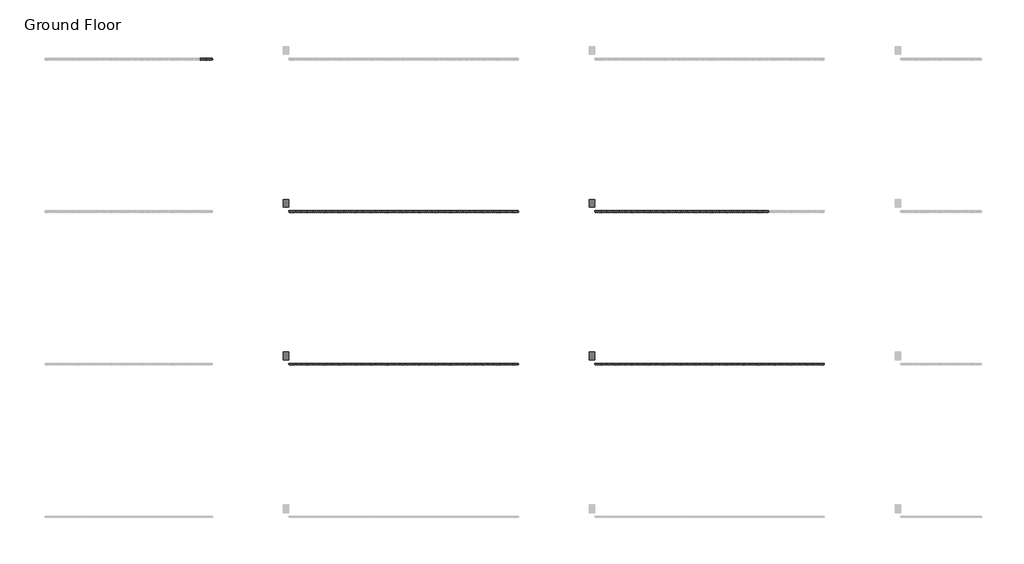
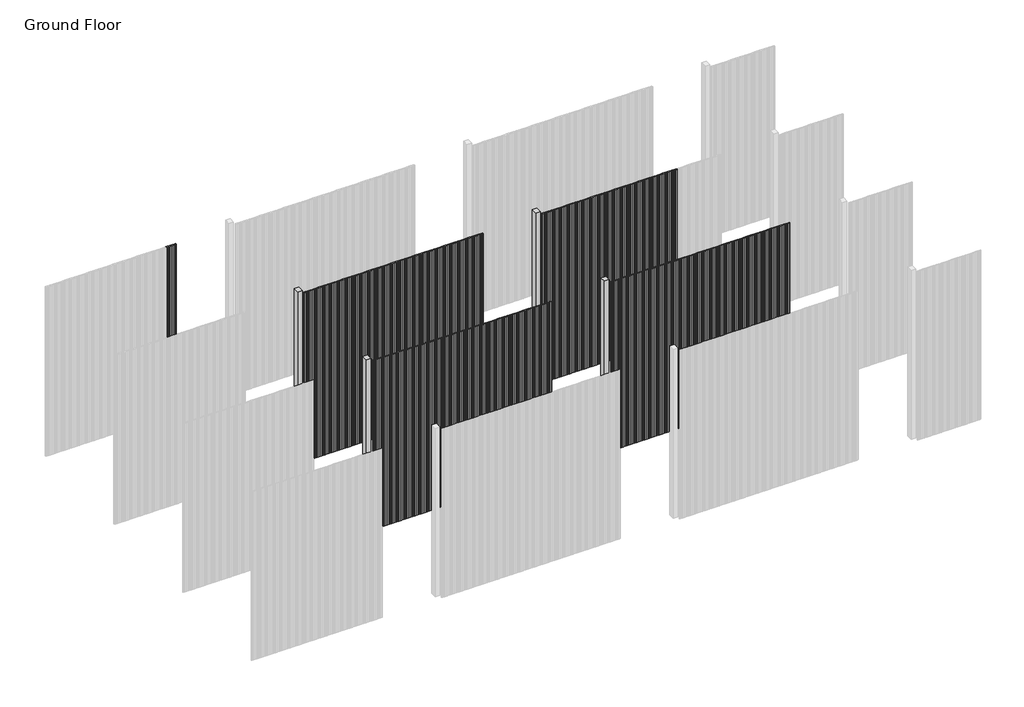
# One storey, part 42 of 350: 141 members, 4 plates.
"""IFC4 building model written with IfcOpenShell, lengths in millimetres."""

from ifc_helpers import new_model, si_unit, origin, place, context, project, spatial, transform, mapped, element, save
from components import rectangular_mullion_14973cdb, rectangular_mullion_624eee80, rectangular_mullion_eca9a012, empty_system_panel_empty_cbd4e42b

model = new_model("IFC4")

# Units and contexts
model_context = context("Model", 3, world=origin())
ifc_project = project(units=[si_unit("LENGTHUNIT", "METRE", prefix="MILLI")], contexts=[model_context])

# Site, building, storey
site = spatial("IfcSite", under=ifc_project)
building = spatial("IfcBuilding", under=site)
storey = spatial("IfcBuildingStorey", under=building, Name="Ground Floor", Elevation=0.0)

# Members
placement = place(None, origin())
rectangular_mullion_shape = rectangular_mullion_14973cdb(model_context)
element("IfcMember", 1, ObjectType="Rectangular Mullion : Cladding_Timber_Modinex_Castelation_81x18_Ironbark", at=placement, inside=storey, context=model_context, shape_type="MappedRepresentation", body=[
    mapped(rectangular_mullion_shape, transform((42536.4361642, 24968.2978302, 0.0), x_axis=(1.0, 0.0, 0.0), y_axis=(0.0, -1.0, 0.0), z_axis=(0.0, 0.0, -1.0))),
])
element("IfcMember", 2, ObjectType="Rectangular Mullion : Cladding_Timber_Modinex_Castelation_81x18_Ironbark", at=placement, inside=storey, context=model_context, shape_type="MappedRepresentation", body=[
    mapped(rectangular_mullion_shape, transform((42617.4361642, 24968.2978302, 0.0), x_axis=(1.0, 0.0, 0.0), y_axis=(0.0, -1.0, 0.0), z_axis=(0.0, 0.0, -1.0))),
])
element("IfcMember", 3, ObjectType="Rectangular Mullion : Cladding_Timber_Modinex_Castelation_81x18_Ironbark", at=placement, inside=storey, context=model_context, shape_type="MappedRepresentation", body=[
    mapped(rectangular_mullion_shape, transform((42698.4361642, 24968.2978302, 0.0), x_axis=(1.0, 0.0, 0.0), y_axis=(0.0, -1.0, 0.0), z_axis=(0.0, 0.0, -1.0))),
])
element("IfcMember", 4, ObjectType="Rectangular Mullion : Cladding_Timber_Modinex_Castelation_81x18_Ironbark", at=placement, inside=storey, context=model_context, shape_type="MappedRepresentation", body=[
    mapped(rectangular_mullion_shape, transform((42779.4361642, 24968.2978302, 0.0), x_axis=(1.0, 0.0, 0.0), y_axis=(0.0, -1.0, 0.0), z_axis=(0.0, 0.0, -1.0))),
])
element("IfcMember", 5, ObjectType="Rectangular Mullion : Cladding_Timber_Modinex_Castelation_81x18_Ironbark", at=placement, inside=storey, context=model_context, shape_type="MappedRepresentation", body=[
    mapped(rectangular_mullion_shape, transform((42860.4361642, 24968.2978302, 0.0), x_axis=(1.0, 0.0, 0.0), y_axis=(0.0, -1.0, 0.0), z_axis=(0.0, 0.0, -1.0))),
])
element("IfcMember", 6, ObjectType="Rectangular Mullion : Cladding_Timber_Modinex_Castelation_81x18_Ironbark", at=placement, inside=storey, context=model_context, shape_type="MappedRepresentation", body=[
    mapped(rectangular_mullion_shape, transform((42941.4361642, 24968.2978302, 0.0), x_axis=(1.0, 0.0, 0.0), y_axis=(0.0, -1.0, 0.0), z_axis=(0.0, 0.0, -1.0))),
])
element("IfcMember", 7, ObjectType="Rectangular Mullion : Cladding_Timber_Modinex_Castelation_81x18_Ironbark", at=placement, inside=storey, context=model_context, shape_type="MappedRepresentation", body=[
    mapped(rectangular_mullion_shape, transform((43022.4361642, 24968.2978302, 0.0), x_axis=(1.0, 0.0, 0.0), y_axis=(0.0, -1.0, 0.0), z_axis=(0.0, 0.0, -1.0))),
])
element("IfcMember", 8, ObjectType="Rectangular Mullion : Cladding_Timber_Modinex_Castelation_81x18_Ironbark", at=placement, inside=storey, context=model_context, shape_type="MappedRepresentation", body=[
    mapped(rectangular_mullion_shape, transform((43103.4361642, 24968.2978302, 0.0), x_axis=(1.0, 0.0, 0.0), y_axis=(0.0, -1.0, 0.0), z_axis=(0.0, 0.0, -1.0))),
])
element("IfcMember", 9, ObjectType="Rectangular Mullion : Cladding_Timber_Modinex_Castelation_81x18_Ironbark", at=placement, inside=storey, context=model_context, shape_type="MappedRepresentation", body=[
    mapped(rectangular_mullion_shape, transform((43184.4361642, 24968.2978302, 0.0), x_axis=(1.0, 0.0, 0.0), y_axis=(0.0, -1.0, 0.0), z_axis=(0.0, 0.0, -1.0))),
])
element("IfcMember", 10, ObjectType="Rectangular Mullion : Cladding_Timber_Modinex_Castelation_81x18_Ironbark", at=placement, inside=storey, context=model_context, shape_type="MappedRepresentation", body=[
    mapped(rectangular_mullion_shape, transform((43265.4361642, 24968.2978302, 0.0), x_axis=(1.0, 0.0, 0.0), y_axis=(0.0, -1.0, 0.0), z_axis=(0.0, 0.0, -1.0))),
])
element("IfcMember", 11, ObjectType="Rectangular Mullion : Cladding_Timber_Modinex_Castelation_81x18_Ironbark", at=placement, inside=storey, context=model_context, shape_type="MappedRepresentation", body=[
    mapped(rectangular_mullion_shape, transform((43346.4361642, 24968.2978302, 0.0), x_axis=(1.0, 0.0, 0.0), y_axis=(0.0, -1.0, 0.0), z_axis=(0.0, 0.0, -1.0))),
])
element("IfcMember", 12, ObjectType="Rectangular Mullion : Cladding_Timber_Modinex_Castelation_81x18_Ironbark", at=placement, inside=storey, context=model_context, shape_type="MappedRepresentation", body=[
    mapped(rectangular_mullion_shape, transform((43427.4361642, 24968.2978302, 0.0), x_axis=(1.0, 0.0, 0.0), y_axis=(0.0, -1.0, 0.0), z_axis=(0.0, 0.0, -1.0))),
])
element("IfcMember", 13, ObjectType="Rectangular Mullion : Cladding_Timber_Modinex_Castelation_81x18_Ironbark", at=placement, inside=storey, context=model_context, shape_type="MappedRepresentation", body=[
    mapped(rectangular_mullion_shape, transform((43508.4361642, 24968.2978302, 0.0), x_axis=(1.0, 0.0, 0.0), y_axis=(0.0, -1.0, 0.0), z_axis=(0.0, 0.0, -1.0))),
])
element("IfcMember", 14, ObjectType="Rectangular Mullion : Cladding_Timber_Modinex_Castelation_81x18_Ironbark", at=placement, inside=storey, context=model_context, shape_type="MappedRepresentation", body=[
    mapped(rectangular_mullion_shape, transform((43589.4361642, 24968.2978302, 0.0), x_axis=(1.0, 0.0, 0.0), y_axis=(0.0, -1.0, 0.0), z_axis=(0.0, 0.0, -1.0))),
])
element("IfcMember", 15, ObjectType="Rectangular Mullion : Cladding_Timber_Modinex_Castelation_81x18_Ironbark", at=placement, inside=storey, context=model_context, shape_type="MappedRepresentation", body=[
    mapped(rectangular_mullion_shape, transform((43670.4361642, 24968.2978302, 0.0), x_axis=(1.0, 0.0, 0.0), y_axis=(0.0, -1.0, 0.0), z_axis=(0.0, 0.0, -1.0))),
])
element("IfcMember", 16, ObjectType="Rectangular Mullion : Cladding_Timber_Modinex_Castelation_81x18_Ironbark", at=placement, inside=storey, context=model_context, shape_type="MappedRepresentation", body=[
    mapped(rectangular_mullion_shape, transform((43751.4361642, 24968.2978302, 0.0), x_axis=(1.0, 0.0, 0.0), y_axis=(0.0, -1.0, 0.0), z_axis=(0.0, 0.0, -1.0))),
])
element("IfcMember", 17, ObjectType="Rectangular Mullion : Cladding_Timber_Modinex_Castelation_81x18_Ironbark", at=placement, inside=storey, context=model_context, shape_type="MappedRepresentation", body=[
    mapped(rectangular_mullion_shape, transform((43832.4361642, 24968.2978302, 0.0), x_axis=(1.0, 0.0, 0.0), y_axis=(0.0, -1.0, 0.0), z_axis=(0.0, 0.0, -1.0))),
])
element("IfcMember", 18, ObjectType="Rectangular Mullion : Cladding_Timber_Modinex_Castelation_81x18_Ironbark", at=placement, inside=storey, context=model_context, shape_type="MappedRepresentation", body=[
    mapped(rectangular_mullion_shape, transform((43913.4361642, 24968.2978302, 0.0), x_axis=(1.0, 0.0, 0.0), y_axis=(0.0, -1.0, 0.0), z_axis=(0.0, 0.0, -1.0))),
])
element("IfcMember", 19, ObjectType="Rectangular Mullion : Cladding_Timber_Modinex_Castelation_81x18_Ironbark", at=placement, inside=storey, context=model_context, shape_type="MappedRepresentation", body=[
    mapped(rectangular_mullion_shape, transform((42455.4361642, 24968.2978302, 0.0), x_axis=(1.0, 0.0, 0.0), y_axis=(0.0, -1.0, 0.0), z_axis=(0.0, 0.0, -1.0))),
])
element("IfcMember", 20, ObjectType="Rectangular Mullion : Cladding_Timber_Modinex_Castelation_81x18_Ironbark", at=placement, inside=storey, context=model_context, shape_type="MappedRepresentation", body=[
    mapped(rectangular_mullion_shape, transform((42374.4361642, 24968.2978302, 0.0), x_axis=(1.0, 0.0, 0.0), y_axis=(0.0, -1.0, 0.0), z_axis=(0.0, 0.0, -1.0))),
])
element("IfcMember", 21, ObjectType="Rectangular Mullion : Cladding_Timber_Modinex_Castelation_81x18_Ironbark", at=placement, inside=storey, context=model_context, shape_type="MappedRepresentation", body=[
    mapped(rectangular_mullion_shape, transform((42293.4361642, 24968.2978302, 0.0), x_axis=(1.0, 0.0, 0.0), y_axis=(0.0, -1.0, 0.0), z_axis=(0.0, 0.0, -1.0))),
])
element("IfcMember", 22, ObjectType="Rectangular Mullion : Cladding_Timber_Modinex_Castelation_81x18_Ironbark", at=placement, inside=storey, context=model_context, shape_type="MappedRepresentation", body=[
    mapped(rectangular_mullion_shape, transform((42212.4361642, 24968.2978302, 0.0), x_axis=(1.0, 0.0, 0.0), y_axis=(0.0, -1.0, 0.0), z_axis=(0.0, 0.0, -1.0))),
])
element("IfcMember", 23, ObjectType="Rectangular Mullion : Cladding_Timber_Modinex_Castelation_81x18_Ironbark", at=placement, inside=storey, context=model_context, shape_type="MappedRepresentation", body=[
    mapped(rectangular_mullion_shape, transform((42131.4361642, 24968.2978302, 0.0), x_axis=(1.0, 0.0, 0.0), y_axis=(0.0, -1.0, 0.0), z_axis=(0.0, 0.0, -1.0))),
])
element("IfcMember", 24, ObjectType="Rectangular Mullion : Cladding_Timber_Modinex_Castelation_81x18_Ironbark", at=placement, inside=storey, context=model_context, shape_type="MappedRepresentation", body=[
    mapped(rectangular_mullion_shape, transform((42050.4361642, 24968.2978302, 0.0), x_axis=(1.0, 0.0, 0.0), y_axis=(0.0, -1.0, 0.0), z_axis=(0.0, 0.0, -1.0))),
])
element("IfcMember", 25, ObjectType="Rectangular Mullion : Cladding_Timber_Modinex_Castelation_81x18_Ironbark", at=placement, inside=storey, context=model_context, shape_type="MappedRepresentation", body=[
    mapped(rectangular_mullion_shape, transform((41969.4361642, 24968.2978302, 0.0), x_axis=(1.0, 0.0, 0.0), y_axis=(0.0, -1.0, 0.0), z_axis=(0.0, 0.0, -1.0))),
])
element("IfcMember", 26, ObjectType="Rectangular Mullion : Cladding_Timber_Modinex_Castelation_81x18_Ironbark", at=placement, inside=storey, context=model_context, shape_type="MappedRepresentation", body=[
    mapped(rectangular_mullion_shape, transform((41888.4361642, 24968.2978302, 0.0), x_axis=(1.0, 0.0, 0.0), y_axis=(0.0, -1.0, 0.0), z_axis=(0.0, 0.0, -1.0))),
])
element("IfcMember", 27, ObjectType="Rectangular Mullion : Cladding_Timber_Modinex_Castelation_81x18_Ironbark", at=placement, inside=storey, context=model_context, shape_type="MappedRepresentation", body=[
    mapped(rectangular_mullion_shape, transform((41807.4361642, 24968.2978302, 0.0), x_axis=(1.0, 0.0, 0.0), y_axis=(0.0, -1.0, 0.0), z_axis=(0.0, 0.0, -1.0))),
])
element("IfcMember", 28, ObjectType="Rectangular Mullion : Cladding_Timber_Modinex_Castelation_81x18_Ironbark", at=placement, inside=storey, context=model_context, shape_type="MappedRepresentation", body=[
    mapped(rectangular_mullion_shape, transform((41726.4361642, 24968.2978302, 0.0), x_axis=(1.0, 0.0, 0.0), y_axis=(0.0, -1.0, 0.0), z_axis=(0.0, 0.0, -1.0))),
])
element("IfcMember", 29, ObjectType="Rectangular Mullion : Cladding_Timber_Modinex_Castelation_81x18_Ironbark", at=placement, inside=storey, context=model_context, shape_type="MappedRepresentation", body=[
    mapped(rectangular_mullion_shape, transform((41645.4361642, 24968.2978302, 0.0), x_axis=(1.0, 0.0, 0.0), y_axis=(0.0, -1.0, 0.0), z_axis=(0.0, 0.0, -1.0))),
])
element("IfcMember", 30, ObjectType="Rectangular Mullion : Cladding_Timber_Modinex_Castelation_81x18_Ironbark", at=placement, inside=storey, context=model_context, shape_type="MappedRepresentation", body=[
    mapped(rectangular_mullion_shape, transform((41564.4361642, 24968.2978302, 0.0), x_axis=(1.0, 0.0, 0.0), y_axis=(0.0, -1.0, 0.0), z_axis=(0.0, 0.0, -1.0))),
])
element("IfcMember", 31, ObjectType="Rectangular Mullion : Cladding_Timber_Modinex_Castelation_81x18_Ironbark", at=placement, inside=storey, context=model_context, shape_type="MappedRepresentation", body=[
    mapped(rectangular_mullion_shape, transform((41483.4361642, 24968.2978302, 0.0), x_axis=(1.0, 0.0, 0.0), y_axis=(0.0, -1.0, 0.0), z_axis=(0.0, 0.0, -1.0))),
])
element("IfcMember", 32, ObjectType="Rectangular Mullion : Cladding_Timber_Modinex_Castelation_81x18_Ironbark", at=placement, inside=storey, context=model_context, shape_type="MappedRepresentation", body=[
    mapped(rectangular_mullion_shape, transform((41402.4361642, 24968.2978302, 0.0), x_axis=(1.0, 0.0, 0.0), y_axis=(0.0, -1.0, 0.0), z_axis=(0.0, 0.0, -1.0))),
])
element("IfcMember", 33, ObjectType="Rectangular Mullion : Cladding_Timber_Modinex_Castelation_81x18_Ironbark", at=placement, inside=storey, context=model_context, shape_type="MappedRepresentation", body=[
    mapped(rectangular_mullion_shape, transform((41321.4361642, 24968.2978302, 0.0), x_axis=(1.0, 0.0, 0.0), y_axis=(0.0, -1.0, 0.0), z_axis=(0.0, 0.0, -1.0))),
])
element("IfcMember", 34, ObjectType="Rectangular Mullion : Cladding_Timber_Modinex_Castelation_81x18_Ironbark", at=placement, inside=storey, context=model_context, shape_type="MappedRepresentation", body=[
    mapped(rectangular_mullion_shape, transform((41240.4361642, 24968.2978302, 0.0), x_axis=(1.0, 0.0, 0.0), y_axis=(0.0, -1.0, 0.0), z_axis=(0.0, 0.0, -1.0))),
])
element("IfcMember", 35, ObjectType="Rectangular Mullion : Cladding_Timber_Modinex_Castelation_81x18_Ironbark", at=placement, inside=storey, context=model_context, shape_type="MappedRepresentation", body=[
    mapped(rectangular_mullion_shape, transform((41159.4361642, 24968.2978302, 0.0), x_axis=(1.0, 0.0, 0.0), y_axis=(0.0, -1.0, 0.0), z_axis=(0.0, 0.0, -1.0))),
])
element("IfcMember", 36, ObjectType="Rectangular Mullion : Cladding_Timber_Modinex_Castelation_81x18_Ironbark", at=placement, inside=storey, context=model_context, shape_type="MappedRepresentation", body=[
    mapped(rectangular_mullion_shape, transform((41078.4361642, 24968.2978302, 0.0), x_axis=(1.0, 0.0, 0.0), y_axis=(0.0, -1.0, 0.0), z_axis=(0.0, 0.0, -1.0))),
])
element("IfcMember", 37, ObjectType="Rectangular Mullion : Cladding_Timber_Modinex_Castelation_81x18_Ironbark", at=placement, inside=storey, context=model_context, shape_type="MappedRepresentation", body=[
    mapped(rectangular_mullion_shape, transform((40997.4361642, 24968.2978302, 0.0), x_axis=(1.0, 0.0, 0.0), y_axis=(0.0, -1.0, 0.0), z_axis=(0.0, 0.0, -1.0))),
])
element("IfcMember", 38, ObjectType="Rectangular Mullion : Cladding_Timber_Modinex_Castelation_81x18_SpottedGum", at=placement, inside=storey, context=model_context, shape_type="MappedRepresentation", body=[
    mapped(rectangular_mullion_shape, transform((46536.4361642, 24968.2978302, 0.0), x_axis=(1.0, 0.0, 0.0), y_axis=(0.0, -1.0, 0.0), z_axis=(0.0, 0.0, -1.0))),
])
element("IfcMember", 39, ObjectType="Rectangular Mullion : Cladding_Timber_Modinex_Castelation_81x18_SpottedGum", at=placement, inside=storey, context=model_context, shape_type="MappedRepresentation", body=[
    mapped(rectangular_mullion_shape, transform((46617.4361642, 24968.2978302, 0.0), x_axis=(1.0, 0.0, 0.0), y_axis=(0.0, -1.0, 0.0), z_axis=(0.0, 0.0, -1.0))),
])
element("IfcMember", 40, ObjectType="Rectangular Mullion : Cladding_Timber_Modinex_Castelation_81x18_SpottedGum", at=placement, inside=storey, context=model_context, shape_type="MappedRepresentation", body=[
    mapped(rectangular_mullion_shape, transform((46698.4361642, 24968.2978302, 0.0), x_axis=(1.0, 0.0, 0.0), y_axis=(0.0, -1.0, 0.0), z_axis=(0.0, 0.0, -1.0))),
])
element("IfcMember", 41, ObjectType="Rectangular Mullion : Cladding_Timber_Modinex_Castelation_81x18_SpottedGum", at=placement, inside=storey, context=model_context, shape_type="MappedRepresentation", body=[
    mapped(rectangular_mullion_shape, transform((46779.4361642, 24968.2978302, 0.0), x_axis=(1.0, 0.0, 0.0), y_axis=(0.0, -1.0, 0.0), z_axis=(0.0, 0.0, -1.0))),
])
element("IfcMember", 42, ObjectType="Rectangular Mullion : Cladding_Timber_Modinex_Castelation_81x18_SpottedGum", at=placement, inside=storey, context=model_context, shape_type="MappedRepresentation", body=[
    mapped(rectangular_mullion_shape, transform((46860.4361642, 24968.2978302, 0.0), x_axis=(1.0, 0.0, 0.0), y_axis=(0.0, -1.0, 0.0), z_axis=(0.0, 0.0, -1.0))),
])
element("IfcMember", 43, ObjectType="Rectangular Mullion : Cladding_Timber_Modinex_Castelation_81x18_SpottedGum", at=placement, inside=storey, context=model_context, shape_type="MappedRepresentation", body=[
    mapped(rectangular_mullion_shape, transform((46941.4361642, 24968.2978302, 0.0), x_axis=(1.0, 0.0, 0.0), y_axis=(0.0, -1.0, 0.0), z_axis=(0.0, 0.0, -1.0))),
])
element("IfcMember", 44, ObjectType="Rectangular Mullion : Cladding_Timber_Modinex_Castelation_81x18_SpottedGum", at=placement, inside=storey, context=model_context, shape_type="MappedRepresentation", body=[
    mapped(rectangular_mullion_shape, transform((47022.4361642, 24968.2978302, 0.0), x_axis=(1.0, 0.0, 0.0), y_axis=(0.0, -1.0, 0.0), z_axis=(0.0, 0.0, -1.0))),
])
element("IfcMember", 45, ObjectType="Rectangular Mullion : Cladding_Timber_Modinex_Castelation_81x18_SpottedGum", at=placement, inside=storey, context=model_context, shape_type="MappedRepresentation", body=[
    mapped(rectangular_mullion_shape, transform((47103.4361642, 24968.2978302, 0.0), x_axis=(1.0, 0.0, 0.0), y_axis=(0.0, -1.0, 0.0), z_axis=(0.0, 0.0, -1.0))),
])
element("IfcMember", 46, ObjectType="Rectangular Mullion : Cladding_Timber_Modinex_Castelation_81x18_SpottedGum", at=placement, inside=storey, context=model_context, shape_type="MappedRepresentation", body=[
    mapped(rectangular_mullion_shape, transform((47184.4361642, 24968.2978302, 0.0), x_axis=(1.0, 0.0, 0.0), y_axis=(0.0, -1.0, 0.0), z_axis=(0.0, 0.0, -1.0))),
])
element("IfcMember", 47, ObjectType="Rectangular Mullion : Cladding_Timber_Modinex_Castelation_81x18_SpottedGum", at=placement, inside=storey, context=model_context, shape_type="MappedRepresentation", body=[
    mapped(rectangular_mullion_shape, transform((47265.4361642, 24968.2978302, 0.0), x_axis=(1.0, 0.0, 0.0), y_axis=(0.0, -1.0, 0.0), z_axis=(0.0, 0.0, -1.0))),
])
element("IfcMember", 48, ObjectType="Rectangular Mullion : Cladding_Timber_Modinex_Castelation_81x18_SpottedGum", at=placement, inside=storey, context=model_context, shape_type="MappedRepresentation", body=[
    mapped(rectangular_mullion_shape, transform((47346.4361642, 24968.2978302, 0.0), x_axis=(1.0, 0.0, 0.0), y_axis=(0.0, -1.0, 0.0), z_axis=(0.0, 0.0, -1.0))),
])
element("IfcMember", 49, ObjectType="Rectangular Mullion : Cladding_Timber_Modinex_Castelation_81x18_SpottedGum", at=placement, inside=storey, context=model_context, shape_type="MappedRepresentation", body=[
    mapped(rectangular_mullion_shape, transform((47427.4361642, 24968.2978302, 0.0), x_axis=(1.0, 0.0, 0.0), y_axis=(0.0, -1.0, 0.0), z_axis=(0.0, 0.0, -1.0))),
])
element("IfcMember", 50, ObjectType="Rectangular Mullion : Cladding_Timber_Modinex_Castelation_81x18_SpottedGum", at=placement, inside=storey, context=model_context, shape_type="MappedRepresentation", body=[
    mapped(rectangular_mullion_shape, transform((47508.4361642, 24968.2978302, 0.0), x_axis=(1.0, 0.0, 0.0), y_axis=(0.0, -1.0, 0.0), z_axis=(0.0, 0.0, -1.0))),
])
element("IfcMember", 51, ObjectType="Rectangular Mullion : Cladding_Timber_Modinex_Castelation_81x18_SpottedGum", at=placement, inside=storey, context=model_context, shape_type="MappedRepresentation", body=[
    mapped(rectangular_mullion_shape, transform((47589.4361642, 24968.2978302, 0.0), x_axis=(1.0, 0.0, 0.0), y_axis=(0.0, -1.0, 0.0), z_axis=(0.0, 0.0, -1.0))),
])
element("IfcMember", 52, ObjectType="Rectangular Mullion : Cladding_Timber_Modinex_Castelation_81x18_SpottedGum", at=placement, inside=storey, context=model_context, shape_type="MappedRepresentation", body=[
    mapped(rectangular_mullion_shape, transform((47670.4361642, 24968.2978302, 0.0), x_axis=(1.0, 0.0, 0.0), y_axis=(0.0, -1.0, 0.0), z_axis=(0.0, 0.0, -1.0))),
])
element("IfcMember", 53, ObjectType="Rectangular Mullion : Cladding_Timber_Modinex_Castelation_81x18_SpottedGum", at=placement, inside=storey, context=model_context, shape_type="MappedRepresentation", body=[
    mapped(rectangular_mullion_shape, transform((47751.4361642, 24968.2978302, 0.0), x_axis=(1.0, 0.0, 0.0), y_axis=(0.0, -1.0, 0.0), z_axis=(0.0, 0.0, -1.0))),
])
element("IfcMember", 54, ObjectType="Rectangular Mullion : Cladding_Timber_Modinex_Castelation_81x18_SpottedGum", at=placement, inside=storey, context=model_context, shape_type="MappedRepresentation", body=[
    mapped(rectangular_mullion_shape, transform((47832.4361642, 24968.2978302, 0.0), x_axis=(1.0, 0.0, 0.0), y_axis=(0.0, -1.0, 0.0), z_axis=(0.0, 0.0, -1.0))),
])
element("IfcMember", 55, ObjectType="Rectangular Mullion : Cladding_Timber_Modinex_Castelation_81x18_SpottedGum", at=placement, inside=storey, context=model_context, shape_type="MappedRepresentation", body=[
    mapped(rectangular_mullion_shape, transform((47913.4361642, 24968.2978302, 0.0), x_axis=(1.0, 0.0, 0.0), y_axis=(0.0, -1.0, 0.0), z_axis=(0.0, 0.0, -1.0))),
])
element("IfcMember", 56, ObjectType="Rectangular Mullion : Cladding_Timber_Modinex_Castelation_81x18_SpottedGum", at=placement, inside=storey, context=model_context, shape_type="MappedRepresentation", body=[
    mapped(rectangular_mullion_shape, transform((46455.4361642, 24968.2978302, 0.0), x_axis=(1.0, 0.0, 0.0), y_axis=(0.0, -1.0, 0.0), z_axis=(0.0, 0.0, -1.0))),
])
element("IfcMember", 57, ObjectType="Rectangular Mullion : Cladding_Timber_Modinex_Castelation_81x18_SpottedGum", at=placement, inside=storey, context=model_context, shape_type="MappedRepresentation", body=[
    mapped(rectangular_mullion_shape, transform((46374.4361642, 24968.2978302, 0.0), x_axis=(1.0, 0.0, 0.0), y_axis=(0.0, -1.0, 0.0), z_axis=(0.0, 0.0, -1.0))),
])
element("IfcMember", 58, ObjectType="Rectangular Mullion : Cladding_Timber_Modinex_Castelation_81x18_SpottedGum", at=placement, inside=storey, context=model_context, shape_type="MappedRepresentation", body=[
    mapped(rectangular_mullion_shape, transform((46293.4361642, 24968.2978302, 0.0), x_axis=(1.0, 0.0, 0.0), y_axis=(0.0, -1.0, 0.0), z_axis=(0.0, 0.0, -1.0))),
])
element("IfcMember", 59, ObjectType="Rectangular Mullion : Cladding_Timber_Modinex_Castelation_81x18_SpottedGum", at=placement, inside=storey, context=model_context, shape_type="MappedRepresentation", body=[
    mapped(rectangular_mullion_shape, transform((46212.4361642, 24968.2978302, 0.0), x_axis=(1.0, 0.0, 0.0), y_axis=(0.0, -1.0, 0.0), z_axis=(0.0, 0.0, -1.0))),
])
element("IfcMember", 60, ObjectType="Rectangular Mullion : Cladding_Timber_Modinex_Castelation_81x18_SpottedGum", at=placement, inside=storey, context=model_context, shape_type="MappedRepresentation", body=[
    mapped(rectangular_mullion_shape, transform((46131.4361642, 24968.2978302, 0.0), x_axis=(1.0, 0.0, 0.0), y_axis=(0.0, -1.0, 0.0), z_axis=(0.0, 0.0, -1.0))),
])
element("IfcMember", 61, ObjectType="Rectangular Mullion : Cladding_Timber_Modinex_Castelation_81x18_SpottedGum", at=placement, inside=storey, context=model_context, shape_type="MappedRepresentation", body=[
    mapped(rectangular_mullion_shape, transform((46050.4361642, 24968.2978302, 0.0), x_axis=(1.0, 0.0, 0.0), y_axis=(0.0, -1.0, 0.0), z_axis=(0.0, 0.0, -1.0))),
])
element("IfcMember", 62, ObjectType="Rectangular Mullion : Cladding_Timber_Modinex_Castelation_81x18_SpottedGum", at=placement, inside=storey, context=model_context, shape_type="MappedRepresentation", body=[
    mapped(rectangular_mullion_shape, transform((45969.4361642, 24968.2978302, 0.0), x_axis=(1.0, 0.0, 0.0), y_axis=(0.0, -1.0, 0.0), z_axis=(0.0, 0.0, -1.0))),
])
element("IfcMember", 63, ObjectType="Rectangular Mullion : Cladding_Timber_Modinex_Castelation_81x18_SpottedGum", at=placement, inside=storey, context=model_context, shape_type="MappedRepresentation", body=[
    mapped(rectangular_mullion_shape, transform((45888.4361642, 24968.2978302, 0.0), x_axis=(1.0, 0.0, 0.0), y_axis=(0.0, -1.0, 0.0), z_axis=(0.0, 0.0, -1.0))),
])
element("IfcMember", 64, ObjectType="Rectangular Mullion : Cladding_Timber_Modinex_Castelation_81x18_SpottedGum", at=placement, inside=storey, context=model_context, shape_type="MappedRepresentation", body=[
    mapped(rectangular_mullion_shape, transform((45807.4361642, 24968.2978302, 0.0), x_axis=(1.0, 0.0, 0.0), y_axis=(0.0, -1.0, 0.0), z_axis=(0.0, 0.0, -1.0))),
])
element("IfcMember", 65, ObjectType="Rectangular Mullion : Cladding_Timber_Modinex_Castelation_81x18_SpottedGum", at=placement, inside=storey, context=model_context, shape_type="MappedRepresentation", body=[
    mapped(rectangular_mullion_shape, transform((45726.4361642, 24968.2978302, 0.0), x_axis=(1.0, 0.0, 0.0), y_axis=(0.0, -1.0, 0.0), z_axis=(0.0, 0.0, -1.0))),
])
element("IfcMember", 66, ObjectType="Rectangular Mullion : Cladding_Timber_Modinex_Castelation_81x18_SpottedGum", at=placement, inside=storey, context=model_context, shape_type="MappedRepresentation", body=[
    mapped(rectangular_mullion_shape, transform((45645.4361642, 24968.2978302, 0.0), x_axis=(1.0, 0.0, 0.0), y_axis=(0.0, -1.0, 0.0), z_axis=(0.0, 0.0, -1.0))),
])
element("IfcMember", 67, ObjectType="Rectangular Mullion : Cladding_Timber_Modinex_Castelation_81x18_SpottedGum", at=placement, inside=storey, context=model_context, shape_type="MappedRepresentation", body=[
    mapped(rectangular_mullion_shape, transform((45564.4361642, 24968.2978302, 0.0), x_axis=(1.0, 0.0, 0.0), y_axis=(0.0, -1.0, 0.0), z_axis=(0.0, 0.0, -1.0))),
])
element("IfcMember", 68, ObjectType="Rectangular Mullion : Cladding_Timber_Modinex_Castelation_81x18_SpottedGum", at=placement, inside=storey, context=model_context, shape_type="MappedRepresentation", body=[
    mapped(rectangular_mullion_shape, transform((45483.4361642, 24968.2978302, 0.0), x_axis=(1.0, 0.0, 0.0), y_axis=(0.0, -1.0, 0.0), z_axis=(0.0, 0.0, -1.0))),
])
element("IfcMember", 69, ObjectType="Rectangular Mullion : Cladding_Timber_Modinex_Castelation_81x18_SpottedGum", at=placement, inside=storey, context=model_context, shape_type="MappedRepresentation", body=[
    mapped(rectangular_mullion_shape, transform((45402.4361642, 24968.2978302, 0.0), x_axis=(1.0, 0.0, 0.0), y_axis=(0.0, -1.0, 0.0), z_axis=(0.0, 0.0, -1.0))),
])
element("IfcMember", 70, ObjectType="Rectangular Mullion : Cladding_Timber_Modinex_Castelation_81x18_SpottedGum", at=placement, inside=storey, context=model_context, shape_type="MappedRepresentation", body=[
    mapped(rectangular_mullion_shape, transform((45321.4361642, 24968.2978302, 0.0), x_axis=(1.0, 0.0, 0.0), y_axis=(0.0, -1.0, 0.0), z_axis=(0.0, 0.0, -1.0))),
])
element("IfcMember", 71, ObjectType="Rectangular Mullion : Cladding_Timber_Modinex_Castelation_81x18_SpottedGum", at=placement, inside=storey, context=model_context, shape_type="MappedRepresentation", body=[
    mapped(rectangular_mullion_shape, transform((45240.4361642, 24968.2978302, 0.0), x_axis=(1.0, 0.0, 0.0), y_axis=(0.0, -1.0, 0.0), z_axis=(0.0, 0.0, -1.0))),
])
element("IfcMember", 72, ObjectType="Rectangular Mullion : Cladding_Timber_Modinex_Castelation_81x18_SpottedGum", at=placement, inside=storey, context=model_context, shape_type="MappedRepresentation", body=[
    mapped(rectangular_mullion_shape, transform((45159.4361642, 24968.2978302, 0.0), x_axis=(1.0, 0.0, 0.0), y_axis=(0.0, -1.0, 0.0), z_axis=(0.0, 0.0, -1.0))),
])
element("IfcMember", 73, ObjectType="Rectangular Mullion : Cladding_Timber_Modinex_Castelation_81x18_SpottedGum", at=placement, inside=storey, context=model_context, shape_type="MappedRepresentation", body=[
    mapped(rectangular_mullion_shape, transform((45078.4361642, 24968.2978302, 0.0), x_axis=(1.0, 0.0, 0.0), y_axis=(0.0, -1.0, 0.0), z_axis=(0.0, 0.0, -1.0))),
])
element("IfcMember", 74, ObjectType="Rectangular Mullion : Cladding_Timber_Modinex_Castelation_81x18_SpottedGum", at=placement, inside=storey, context=model_context, shape_type="MappedRepresentation", body=[
    mapped(rectangular_mullion_shape, transform((44997.4361642, 24968.2978302, 0.0), x_axis=(1.0, 0.0, 0.0), y_axis=(0.0, -1.0, 0.0), z_axis=(0.0, 0.0, -1.0))),
])
rectangular_mullion_2_shape = rectangular_mullion_624eee80(model_context)
element("IfcMember", 75, ObjectType="Rectangular Mullion : Cladding_Timber_Modinex_Castelation_81x21_Ironbark", at=placement, inside=storey, context=model_context, shape_type="MappedRepresentation", body=[
    mapped(rectangular_mullion_2_shape, transform((42536.4361642, 26968.2978302, 0.0), x_axis=(1.0, 0.0, 0.0), y_axis=(0.0, -1.0, 0.0), z_axis=(0.0, 0.0, -1.0))),
])
element("IfcMember", 76, ObjectType="Rectangular Mullion : Cladding_Timber_Modinex_Castelation_81x21_Ironbark", at=placement, inside=storey, context=model_context, shape_type="MappedRepresentation", body=[
    mapped(rectangular_mullion_2_shape, transform((42617.4361642, 26968.2978302, 0.0), x_axis=(1.0, 0.0, 0.0), y_axis=(0.0, -1.0, 0.0), z_axis=(0.0, 0.0, -1.0))),
])
element("IfcMember", 77, ObjectType="Rectangular Mullion : Cladding_Timber_Modinex_Castelation_81x21_Ironbark", at=placement, inside=storey, context=model_context, shape_type="MappedRepresentation", body=[
    mapped(rectangular_mullion_2_shape, transform((42698.4361642, 26968.2978302, 0.0), x_axis=(1.0, 0.0, 0.0), y_axis=(0.0, -1.0, 0.0), z_axis=(0.0, 0.0, -1.0))),
])
element("IfcMember", 78, ObjectType="Rectangular Mullion : Cladding_Timber_Modinex_Castelation_81x21_Ironbark", at=placement, inside=storey, context=model_context, shape_type="MappedRepresentation", body=[
    mapped(rectangular_mullion_2_shape, transform((42779.4361642, 26968.2978302, 0.0), x_axis=(1.0, 0.0, 0.0), y_axis=(0.0, -1.0, 0.0), z_axis=(0.0, 0.0, -1.0))),
])
element("IfcMember", 79, ObjectType="Rectangular Mullion : Cladding_Timber_Modinex_Castelation_81x21_Ironbark", at=placement, inside=storey, context=model_context, shape_type="MappedRepresentation", body=[
    mapped(rectangular_mullion_2_shape, transform((42860.4361642, 26968.2978302, 0.0), x_axis=(1.0, 0.0, 0.0), y_axis=(0.0, -1.0, 0.0), z_axis=(0.0, 0.0, -1.0))),
])
element("IfcMember", 80, ObjectType="Rectangular Mullion : Cladding_Timber_Modinex_Castelation_81x21_Ironbark", at=placement, inside=storey, context=model_context, shape_type="MappedRepresentation", body=[
    mapped(rectangular_mullion_2_shape, transform((42941.4361642, 26968.2978302, 0.0), x_axis=(1.0, 0.0, 0.0), y_axis=(0.0, -1.0, 0.0), z_axis=(0.0, 0.0, -1.0))),
])
element("IfcMember", 81, ObjectType="Rectangular Mullion : Cladding_Timber_Modinex_Castelation_81x21_Ironbark", at=placement, inside=storey, context=model_context, shape_type="MappedRepresentation", body=[
    mapped(rectangular_mullion_2_shape, transform((43022.4361642, 26968.2978302, 0.0), x_axis=(1.0, 0.0, 0.0), y_axis=(0.0, -1.0, 0.0), z_axis=(0.0, 0.0, -1.0))),
])
element("IfcMember", 82, ObjectType="Rectangular Mullion : Cladding_Timber_Modinex_Castelation_81x21_Ironbark", at=placement, inside=storey, context=model_context, shape_type="MappedRepresentation", body=[
    mapped(rectangular_mullion_2_shape, transform((43103.4361642, 26968.2978302, 0.0), x_axis=(1.0, 0.0, 0.0), y_axis=(0.0, -1.0, 0.0), z_axis=(0.0, 0.0, -1.0))),
])
element("IfcMember", 83, ObjectType="Rectangular Mullion : Cladding_Timber_Modinex_Castelation_81x21_Ironbark", at=placement, inside=storey, context=model_context, shape_type="MappedRepresentation", body=[
    mapped(rectangular_mullion_2_shape, transform((43184.4361642, 26968.2978302, 0.0), x_axis=(1.0, 0.0, 0.0), y_axis=(0.0, -1.0, 0.0), z_axis=(0.0, 0.0, -1.0))),
])
element("IfcMember", 84, ObjectType="Rectangular Mullion : Cladding_Timber_Modinex_Castelation_81x21_Ironbark", at=placement, inside=storey, context=model_context, shape_type="MappedRepresentation", body=[
    mapped(rectangular_mullion_2_shape, transform((43265.4361642, 26968.2978302, 0.0), x_axis=(1.0, 0.0, 0.0), y_axis=(0.0, -1.0, 0.0), z_axis=(0.0, 0.0, -1.0))),
])
element("IfcMember", 85, ObjectType="Rectangular Mullion : Cladding_Timber_Modinex_Castelation_81x21_Ironbark", at=placement, inside=storey, context=model_context, shape_type="MappedRepresentation", body=[
    mapped(rectangular_mullion_2_shape, transform((43346.4361642, 26968.2978302, 0.0), x_axis=(1.0, 0.0, 0.0), y_axis=(0.0, -1.0, 0.0), z_axis=(0.0, 0.0, -1.0))),
])
element("IfcMember", 86, ObjectType="Rectangular Mullion : Cladding_Timber_Modinex_Castelation_81x21_Ironbark", at=placement, inside=storey, context=model_context, shape_type="MappedRepresentation", body=[
    mapped(rectangular_mullion_2_shape, transform((43427.4361642, 26968.2978302, 0.0), x_axis=(1.0, 0.0, 0.0), y_axis=(0.0, -1.0, 0.0), z_axis=(0.0, 0.0, -1.0))),
])
element("IfcMember", 87, ObjectType="Rectangular Mullion : Cladding_Timber_Modinex_Castelation_81x21_Ironbark", at=placement, inside=storey, context=model_context, shape_type="MappedRepresentation", body=[
    mapped(rectangular_mullion_2_shape, transform((43508.4361642, 26968.2978302, 0.0), x_axis=(1.0, 0.0, 0.0), y_axis=(0.0, -1.0, 0.0), z_axis=(0.0, 0.0, -1.0))),
])
element("IfcMember", 88, ObjectType="Rectangular Mullion : Cladding_Timber_Modinex_Castelation_81x21_Ironbark", at=placement, inside=storey, context=model_context, shape_type="MappedRepresentation", body=[
    mapped(rectangular_mullion_2_shape, transform((43589.4361642, 26968.2978302, 0.0), x_axis=(1.0, 0.0, 0.0), y_axis=(0.0, -1.0, 0.0), z_axis=(0.0, 0.0, -1.0))),
])
element("IfcMember", 89, ObjectType="Rectangular Mullion : Cladding_Timber_Modinex_Castelation_81x21_Ironbark", at=placement, inside=storey, context=model_context, shape_type="MappedRepresentation", body=[
    mapped(rectangular_mullion_2_shape, transform((43670.4361642, 26968.2978302, 0.0), x_axis=(1.0, 0.0, 0.0), y_axis=(0.0, -1.0, 0.0), z_axis=(0.0, 0.0, -1.0))),
])
element("IfcMember", 90, ObjectType="Rectangular Mullion : Cladding_Timber_Modinex_Castelation_81x21_Ironbark", at=placement, inside=storey, context=model_context, shape_type="MappedRepresentation", body=[
    mapped(rectangular_mullion_2_shape, transform((43751.4361642, 26968.2978302, 0.0), x_axis=(1.0, 0.0, 0.0), y_axis=(0.0, -1.0, 0.0), z_axis=(0.0, 0.0, -1.0))),
])
element("IfcMember", 91, ObjectType="Rectangular Mullion : Cladding_Timber_Modinex_Castelation_81x21_Ironbark", at=placement, inside=storey, context=model_context, shape_type="MappedRepresentation", body=[
    mapped(rectangular_mullion_2_shape, transform((43832.4361642, 26968.2978302, 0.0), x_axis=(1.0, 0.0, 0.0), y_axis=(0.0, -1.0, 0.0), z_axis=(0.0, 0.0, -1.0))),
])
element("IfcMember", 92, ObjectType="Rectangular Mullion : Cladding_Timber_Modinex_Castelation_81x21_Ironbark", at=placement, inside=storey, context=model_context, shape_type="MappedRepresentation", body=[
    mapped(rectangular_mullion_2_shape, transform((43913.4361642, 26968.2978302, 0.0), x_axis=(1.0, 0.0, 0.0), y_axis=(0.0, -1.0, 0.0), z_axis=(0.0, 0.0, -1.0))),
])
element("IfcMember", 93, ObjectType="Rectangular Mullion : Cladding_Timber_Modinex_Castelation_81x21_Ironbark", at=placement, inside=storey, context=model_context, shape_type="MappedRepresentation", body=[
    mapped(rectangular_mullion_2_shape, transform((42455.4361642, 26968.2978302, 0.0), x_axis=(1.0, 0.0, 0.0), y_axis=(0.0, -1.0, 0.0), z_axis=(0.0, 0.0, -1.0))),
])
element("IfcMember", 94, ObjectType="Rectangular Mullion : Cladding_Timber_Modinex_Castelation_81x21_Ironbark", at=placement, inside=storey, context=model_context, shape_type="MappedRepresentation", body=[
    mapped(rectangular_mullion_2_shape, transform((42374.4361642, 26968.2978302, 0.0), x_axis=(1.0, 0.0, 0.0), y_axis=(0.0, -1.0, 0.0), z_axis=(0.0, 0.0, -1.0))),
])
element("IfcMember", 95, ObjectType="Rectangular Mullion : Cladding_Timber_Modinex_Castelation_81x21_Ironbark", at=placement, inside=storey, context=model_context, shape_type="MappedRepresentation", body=[
    mapped(rectangular_mullion_2_shape, transform((42293.4361642, 26968.2978302, 0.0), x_axis=(1.0, 0.0, 0.0), y_axis=(0.0, -1.0, 0.0), z_axis=(0.0, 0.0, -1.0))),
])
element("IfcMember", 96, ObjectType="Rectangular Mullion : Cladding_Timber_Modinex_Castelation_81x21_Ironbark", at=placement, inside=storey, context=model_context, shape_type="MappedRepresentation", body=[
    mapped(rectangular_mullion_2_shape, transform((42212.4361642, 26968.2978302, 0.0), x_axis=(1.0, 0.0, 0.0), y_axis=(0.0, -1.0, 0.0), z_axis=(0.0, 0.0, -1.0))),
])
element("IfcMember", 97, ObjectType="Rectangular Mullion : Cladding_Timber_Modinex_Castelation_81x21_Ironbark", at=placement, inside=storey, context=model_context, shape_type="MappedRepresentation", body=[
    mapped(rectangular_mullion_2_shape, transform((42131.4361642, 26968.2978302, 0.0), x_axis=(1.0, 0.0, 0.0), y_axis=(0.0, -1.0, 0.0), z_axis=(0.0, 0.0, -1.0))),
])
element("IfcMember", 98, ObjectType="Rectangular Mullion : Cladding_Timber_Modinex_Castelation_81x21_Ironbark", at=placement, inside=storey, context=model_context, shape_type="MappedRepresentation", body=[
    mapped(rectangular_mullion_2_shape, transform((42050.4361642, 26968.2978302, 0.0), x_axis=(1.0, 0.0, 0.0), y_axis=(0.0, -1.0, 0.0), z_axis=(0.0, 0.0, -1.0))),
])
element("IfcMember", 99, ObjectType="Rectangular Mullion : Cladding_Timber_Modinex_Castelation_81x21_Ironbark", at=placement, inside=storey, context=model_context, shape_type="MappedRepresentation", body=[
    mapped(rectangular_mullion_2_shape, transform((41969.4361642, 26968.2978302, 0.0), x_axis=(1.0, 0.0, 0.0), y_axis=(0.0, -1.0, 0.0), z_axis=(0.0, 0.0, -1.0))),
])
element("IfcMember", 100, ObjectType="Rectangular Mullion : Cladding_Timber_Modinex_Castelation_81x21_Ironbark", at=placement, inside=storey, context=model_context, shape_type="MappedRepresentation", body=[
    mapped(rectangular_mullion_2_shape, transform((41888.4361642, 26968.2978302, 0.0), x_axis=(1.0, 0.0, 0.0), y_axis=(0.0, -1.0, 0.0), z_axis=(0.0, 0.0, -1.0))),
])
element("IfcMember", 101, ObjectType="Rectangular Mullion : Cladding_Timber_Modinex_Castelation_81x21_Ironbark", at=placement, inside=storey, context=model_context, shape_type="MappedRepresentation", body=[
    mapped(rectangular_mullion_2_shape, transform((41807.4361642, 26968.2978302, 0.0), x_axis=(1.0, 0.0, 0.0), y_axis=(0.0, -1.0, 0.0), z_axis=(0.0, 0.0, -1.0))),
])
element("IfcMember", 102, ObjectType="Rectangular Mullion : Cladding_Timber_Modinex_Castelation_81x21_Ironbark", at=placement, inside=storey, context=model_context, shape_type="MappedRepresentation", body=[
    mapped(rectangular_mullion_2_shape, transform((41726.4361642, 26968.2978302, 0.0), x_axis=(1.0, 0.0, 0.0), y_axis=(0.0, -1.0, 0.0), z_axis=(0.0, 0.0, -1.0))),
])
element("IfcMember", 103, ObjectType="Rectangular Mullion : Cladding_Timber_Modinex_Castelation_81x21_Ironbark", at=placement, inside=storey, context=model_context, shape_type="MappedRepresentation", body=[
    mapped(rectangular_mullion_2_shape, transform((41645.4361642, 26968.2978302, 0.0), x_axis=(1.0, 0.0, 0.0), y_axis=(0.0, -1.0, 0.0), z_axis=(0.0, 0.0, -1.0))),
])
element("IfcMember", 104, ObjectType="Rectangular Mullion : Cladding_Timber_Modinex_Castelation_81x21_Ironbark", at=placement, inside=storey, context=model_context, shape_type="MappedRepresentation", body=[
    mapped(rectangular_mullion_2_shape, transform((41564.4361642, 26968.2978302, 0.0), x_axis=(1.0, 0.0, 0.0), y_axis=(0.0, -1.0, 0.0), z_axis=(0.0, 0.0, -1.0))),
])
element("IfcMember", 105, ObjectType="Rectangular Mullion : Cladding_Timber_Modinex_Castelation_81x21_Ironbark", at=placement, inside=storey, context=model_context, shape_type="MappedRepresentation", body=[
    mapped(rectangular_mullion_2_shape, transform((41483.4361642, 26968.2978302, 0.0), x_axis=(1.0, 0.0, 0.0), y_axis=(0.0, -1.0, 0.0), z_axis=(0.0, 0.0, -1.0))),
])
element("IfcMember", 106, ObjectType="Rectangular Mullion : Cladding_Timber_Modinex_Castelation_81x21_Ironbark", at=placement, inside=storey, context=model_context, shape_type="MappedRepresentation", body=[
    mapped(rectangular_mullion_2_shape, transform((41402.4361642, 26968.2978302, 0.0), x_axis=(1.0, 0.0, 0.0), y_axis=(0.0, -1.0, 0.0), z_axis=(0.0, 0.0, -1.0))),
])
element("IfcMember", 107, ObjectType="Rectangular Mullion : Cladding_Timber_Modinex_Castelation_81x21_Ironbark", at=placement, inside=storey, context=model_context, shape_type="MappedRepresentation", body=[
    mapped(rectangular_mullion_2_shape, transform((41321.4361642, 26968.2978302, 0.0), x_axis=(1.0, 0.0, 0.0), y_axis=(0.0, -1.0, 0.0), z_axis=(0.0, 0.0, -1.0))),
])
element("IfcMember", 108, ObjectType="Rectangular Mullion : Cladding_Timber_Modinex_Castelation_81x21_Ironbark", at=placement, inside=storey, context=model_context, shape_type="MappedRepresentation", body=[
    mapped(rectangular_mullion_2_shape, transform((41240.4361642, 26968.2978302, 0.0), x_axis=(1.0, 0.0, 0.0), y_axis=(0.0, -1.0, 0.0), z_axis=(0.0, 0.0, -1.0))),
])
element("IfcMember", 109, ObjectType="Rectangular Mullion : Cladding_Timber_Modinex_Castelation_81x21_Ironbark", at=placement, inside=storey, context=model_context, shape_type="MappedRepresentation", body=[
    mapped(rectangular_mullion_2_shape, transform((41159.4361642, 26968.2978302, 0.0), x_axis=(1.0, 0.0, 0.0), y_axis=(0.0, -1.0, 0.0), z_axis=(0.0, 0.0, -1.0))),
])
element("IfcMember", 110, ObjectType="Rectangular Mullion : Cladding_Timber_Modinex_Castelation_81x21_Ironbark", at=placement, inside=storey, context=model_context, shape_type="MappedRepresentation", body=[
    mapped(rectangular_mullion_2_shape, transform((41078.4361642, 26968.2978302, 0.0), x_axis=(1.0, 0.0, 0.0), y_axis=(0.0, -1.0, 0.0), z_axis=(0.0, 0.0, -1.0))),
])
element("IfcMember", 111, ObjectType="Rectangular Mullion : Cladding_Timber_Modinex_Castelation_81x21_Ironbark", at=placement, inside=storey, context=model_context, shape_type="MappedRepresentation", body=[
    mapped(rectangular_mullion_2_shape, transform((40997.4361642, 26968.2978302, 0.0), x_axis=(1.0, 0.0, 0.0), y_axis=(0.0, -1.0, 0.0), z_axis=(0.0, 0.0, -1.0))),
])
element("IfcMember", 112, ObjectType="Rectangular Mullion : Cladding_Timber_Modinex_Castelation_81x21_SpottedGum", at=placement, inside=storey, context=model_context, shape_type="MappedRepresentation", body=[
    mapped(rectangular_mullion_2_shape, transform((46536.4361642, 26968.2978302, 0.0), x_axis=(1.0, 0.0, 0.0), y_axis=(0.0, -1.0, 0.0), z_axis=(0.0, 0.0, -1.0))),
])
element("IfcMember", 113, ObjectType="Rectangular Mullion : Cladding_Timber_Modinex_Castelation_81x21_SpottedGum", at=placement, inside=storey, context=model_context, shape_type="MappedRepresentation", body=[
    mapped(rectangular_mullion_2_shape, transform((46617.4361642, 26968.2978302, 0.0), x_axis=(1.0, 0.0, 0.0), y_axis=(0.0, -1.0, 0.0), z_axis=(0.0, 0.0, -1.0))),
])
element("IfcMember", 114, ObjectType="Rectangular Mullion : Cladding_Timber_Modinex_Castelation_81x21_SpottedGum", at=placement, inside=storey, context=model_context, shape_type="MappedRepresentation", body=[
    mapped(rectangular_mullion_2_shape, transform((46698.4361642, 26968.2978302, 0.0), x_axis=(1.0, 0.0, 0.0), y_axis=(0.0, -1.0, 0.0), z_axis=(0.0, 0.0, -1.0))),
])
element("IfcMember", 115, ObjectType="Rectangular Mullion : Cladding_Timber_Modinex_Castelation_81x21_SpottedGum", at=placement, inside=storey, context=model_context, shape_type="MappedRepresentation", body=[
    mapped(rectangular_mullion_2_shape, transform((46779.4361642, 26968.2978302, 0.0), x_axis=(1.0, 0.0, 0.0), y_axis=(0.0, -1.0, 0.0), z_axis=(0.0, 0.0, -1.0))),
])
element("IfcMember", 116, ObjectType="Rectangular Mullion : Cladding_Timber_Modinex_Castelation_81x21_SpottedGum", at=placement, inside=storey, context=model_context, shape_type="MappedRepresentation", body=[
    mapped(rectangular_mullion_2_shape, transform((46860.4361642, 26968.2978302, 0.0), x_axis=(1.0, 0.0, 0.0), y_axis=(0.0, -1.0, 0.0), z_axis=(0.0, 0.0, -1.0))),
])
element("IfcMember", 117, ObjectType="Rectangular Mullion : Cladding_Timber_Modinex_Castelation_81x21_SpottedGum", at=placement, inside=storey, context=model_context, shape_type="MappedRepresentation", body=[
    mapped(rectangular_mullion_2_shape, transform((46941.4361642, 26968.2978302, 0.0), x_axis=(1.0, 0.0, 0.0), y_axis=(0.0, -1.0, 0.0), z_axis=(0.0, 0.0, -1.0))),
])
element("IfcMember", 118, ObjectType="Rectangular Mullion : Cladding_Timber_Modinex_Castelation_81x21_SpottedGum", at=placement, inside=storey, context=model_context, shape_type="MappedRepresentation", body=[
    mapped(rectangular_mullion_2_shape, transform((47022.4361642, 26968.2978302, 0.0), x_axis=(1.0, 0.0, 0.0), y_axis=(0.0, -1.0, 0.0), z_axis=(0.0, 0.0, -1.0))),
])
element("IfcMember", 119, ObjectType="Rectangular Mullion : Cladding_Timber_Modinex_Castelation_81x21_SpottedGum", at=placement, inside=storey, context=model_context, shape_type="MappedRepresentation", body=[
    mapped(rectangular_mullion_2_shape, transform((47103.4361642, 26968.2978302, 0.0), x_axis=(1.0, 0.0, 0.0), y_axis=(0.0, -1.0, 0.0), z_axis=(0.0, 0.0, -1.0))),
])
element("IfcMember", 120, ObjectType="Rectangular Mullion : Cladding_Timber_Modinex_Castelation_81x21_SpottedGum", at=placement, inside=storey, context=model_context, shape_type="MappedRepresentation", body=[
    mapped(rectangular_mullion_2_shape, transform((47184.4361642, 26968.2978302, 0.0), x_axis=(1.0, 0.0, 0.0), y_axis=(0.0, -1.0, 0.0), z_axis=(0.0, 0.0, -1.0))),
])
element("IfcMember", 121, ObjectType="Rectangular Mullion : Cladding_Timber_Modinex_Castelation_81x21_SpottedGum", at=placement, inside=storey, context=model_context, shape_type="MappedRepresentation", body=[
    mapped(rectangular_mullion_2_shape, transform((46455.4361642, 26968.2978302, 0.0), x_axis=(1.0, 0.0, 0.0), y_axis=(0.0, -1.0, 0.0), z_axis=(0.0, 0.0, -1.0))),
])
element("IfcMember", 122, ObjectType="Rectangular Mullion : Cladding_Timber_Modinex_Castelation_81x21_SpottedGum", at=placement, inside=storey, context=model_context, shape_type="MappedRepresentation", body=[
    mapped(rectangular_mullion_2_shape, transform((46374.4361642, 26968.2978302, 0.0), x_axis=(1.0, 0.0, 0.0), y_axis=(0.0, -1.0, 0.0), z_axis=(0.0, 0.0, -1.0))),
])
element("IfcMember", 123, ObjectType="Rectangular Mullion : Cladding_Timber_Modinex_Castelation_81x21_SpottedGum", at=placement, inside=storey, context=model_context, shape_type="MappedRepresentation", body=[
    mapped(rectangular_mullion_2_shape, transform((46293.4361642, 26968.2978302, 0.0), x_axis=(1.0, 0.0, 0.0), y_axis=(0.0, -1.0, 0.0), z_axis=(0.0, 0.0, -1.0))),
])
element("IfcMember", 124, ObjectType="Rectangular Mullion : Cladding_Timber_Modinex_Castelation_81x21_SpottedGum", at=placement, inside=storey, context=model_context, shape_type="MappedRepresentation", body=[
    mapped(rectangular_mullion_2_shape, transform((46212.4361642, 26968.2978302, 0.0), x_axis=(1.0, 0.0, 0.0), y_axis=(0.0, -1.0, 0.0), z_axis=(0.0, 0.0, -1.0))),
])
element("IfcMember", 125, ObjectType="Rectangular Mullion : Cladding_Timber_Modinex_Castelation_81x21_SpottedGum", at=placement, inside=storey, context=model_context, shape_type="MappedRepresentation", body=[
    mapped(rectangular_mullion_2_shape, transform((46131.4361642, 26968.2978302, 0.0), x_axis=(1.0, 0.0, 0.0), y_axis=(0.0, -1.0, 0.0), z_axis=(0.0, 0.0, -1.0))),
])
element("IfcMember", 126, ObjectType="Rectangular Mullion : Cladding_Timber_Modinex_Castelation_81x21_SpottedGum", at=placement, inside=storey, context=model_context, shape_type="MappedRepresentation", body=[
    mapped(rectangular_mullion_2_shape, transform((46050.4361642, 26968.2978302, 0.0), x_axis=(1.0, 0.0, 0.0), y_axis=(0.0, -1.0, 0.0), z_axis=(0.0, 0.0, -1.0))),
])
element("IfcMember", 127, ObjectType="Rectangular Mullion : Cladding_Timber_Modinex_Castelation_81x21_SpottedGum", at=placement, inside=storey, context=model_context, shape_type="MappedRepresentation", body=[
    mapped(rectangular_mullion_2_shape, transform((45969.4361642, 26968.2978302, 0.0), x_axis=(1.0, 0.0, 0.0), y_axis=(0.0, -1.0, 0.0), z_axis=(0.0, 0.0, -1.0))),
])
element("IfcMember", 128, ObjectType="Rectangular Mullion : Cladding_Timber_Modinex_Castelation_81x21_SpottedGum", at=placement, inside=storey, context=model_context, shape_type="MappedRepresentation", body=[
    mapped(rectangular_mullion_2_shape, transform((45888.4361642, 26968.2978302, 0.0), x_axis=(1.0, 0.0, 0.0), y_axis=(0.0, -1.0, 0.0), z_axis=(0.0, 0.0, -1.0))),
])
element("IfcMember", 129, ObjectType="Rectangular Mullion : Cladding_Timber_Modinex_Castelation_81x21_SpottedGum", at=placement, inside=storey, context=model_context, shape_type="MappedRepresentation", body=[
    mapped(rectangular_mullion_2_shape, transform((45807.4361642, 26968.2978302, 0.0), x_axis=(1.0, 0.0, 0.0), y_axis=(0.0, -1.0, 0.0), z_axis=(0.0, 0.0, -1.0))),
])
element("IfcMember", 130, ObjectType="Rectangular Mullion : Cladding_Timber_Modinex_Castelation_81x21_SpottedGum", at=placement, inside=storey, context=model_context, shape_type="MappedRepresentation", body=[
    mapped(rectangular_mullion_2_shape, transform((45726.4361642, 26968.2978302, 0.0), x_axis=(1.0, 0.0, 0.0), y_axis=(0.0, -1.0, 0.0), z_axis=(0.0, 0.0, -1.0))),
])
element("IfcMember", 131, ObjectType="Rectangular Mullion : Cladding_Timber_Modinex_Castelation_81x21_SpottedGum", at=placement, inside=storey, context=model_context, shape_type="MappedRepresentation", body=[
    mapped(rectangular_mullion_2_shape, transform((45645.4361642, 26968.2978302, 0.0), x_axis=(1.0, 0.0, 0.0), y_axis=(0.0, -1.0, 0.0), z_axis=(0.0, 0.0, -1.0))),
])
element("IfcMember", 132, ObjectType="Rectangular Mullion : Cladding_Timber_Modinex_Castelation_81x21_SpottedGum", at=placement, inside=storey, context=model_context, shape_type="MappedRepresentation", body=[
    mapped(rectangular_mullion_2_shape, transform((45564.4361642, 26968.2978302, 0.0), x_axis=(1.0, 0.0, 0.0), y_axis=(0.0, -1.0, 0.0), z_axis=(0.0, 0.0, -1.0))),
])
element("IfcMember", 133, ObjectType="Rectangular Mullion : Cladding_Timber_Modinex_Castelation_81x21_SpottedGum", at=placement, inside=storey, context=model_context, shape_type="MappedRepresentation", body=[
    mapped(rectangular_mullion_2_shape, transform((45483.4361642, 26968.2978302, 0.0), x_axis=(1.0, 0.0, 0.0), y_axis=(0.0, -1.0, 0.0), z_axis=(0.0, 0.0, -1.0))),
])
element("IfcMember", 134, ObjectType="Rectangular Mullion : Cladding_Timber_Modinex_Castelation_81x21_SpottedGum", at=placement, inside=storey, context=model_context, shape_type="MappedRepresentation", body=[
    mapped(rectangular_mullion_2_shape, transform((45402.4361642, 26968.2978302, 0.0), x_axis=(1.0, 0.0, 0.0), y_axis=(0.0, -1.0, 0.0), z_axis=(0.0, 0.0, -1.0))),
])
element("IfcMember", 135, ObjectType="Rectangular Mullion : Cladding_Timber_Modinex_Castelation_81x21_SpottedGum", at=placement, inside=storey, context=model_context, shape_type="MappedRepresentation", body=[
    mapped(rectangular_mullion_2_shape, transform((45321.4361642, 26968.2978302, 0.0), x_axis=(1.0, 0.0, 0.0), y_axis=(0.0, -1.0, 0.0), z_axis=(0.0, 0.0, -1.0))),
])
element("IfcMember", 136, ObjectType="Rectangular Mullion : Cladding_Timber_Modinex_Castelation_81x21_SpottedGum", at=placement, inside=storey, context=model_context, shape_type="MappedRepresentation", body=[
    mapped(rectangular_mullion_2_shape, transform((45240.4361642, 26968.2978302, 0.0), x_axis=(1.0, 0.0, 0.0), y_axis=(0.0, -1.0, 0.0), z_axis=(0.0, 0.0, -1.0))),
])
element("IfcMember", 137, ObjectType="Rectangular Mullion : Cladding_Timber_Modinex_Castelation_81x21_SpottedGum", at=placement, inside=storey, context=model_context, shape_type="MappedRepresentation", body=[
    mapped(rectangular_mullion_2_shape, transform((45159.4361642, 26968.2978302, 0.0), x_axis=(1.0, 0.0, 0.0), y_axis=(0.0, -1.0, 0.0), z_axis=(0.0, 0.0, -1.0))),
])
element("IfcMember", 138, ObjectType="Rectangular Mullion : Cladding_Timber_Modinex_Castelation_81x21_SpottedGum", at=placement, inside=storey, context=model_context, shape_type="MappedRepresentation", body=[
    mapped(rectangular_mullion_2_shape, transform((45078.4361642, 26968.2978302, 0.0), x_axis=(1.0, 0.0, 0.0), y_axis=(0.0, -1.0, 0.0), z_axis=(0.0, 0.0, -1.0))),
])
element("IfcMember", 139, ObjectType="Rectangular Mullion : Cladding_Timber_Modinex_Castelation_81x21_SpottedGum", at=placement, inside=storey, context=model_context, shape_type="MappedRepresentation", body=[
    mapped(rectangular_mullion_2_shape, transform((44997.4361642, 26968.2978302, 0.0), x_axis=(1.0, 0.0, 0.0), y_axis=(0.0, -1.0, 0.0), z_axis=(0.0, 0.0, -1.0))),
])
rectangular_mullion_3_shape = rectangular_mullion_eca9a012(model_context)
element("IfcMember", 140, ObjectType="Rectangular Mullion : Cladding_Timber_Modinex_Castelation_81x26_Hemlock", at=placement, inside=storey, context=model_context, shape_type="MappedRepresentation", body=[
    mapped(rectangular_mullion_3_shape, transform((39832.4361642, 28968.2978302, 0.0), x_axis=(1.0, 0.0, 0.0), y_axis=(0.0, -1.0, 0.0), z_axis=(0.0, 0.0, -1.0))),
])
element("IfcMember", 141, ObjectType="Rectangular Mullion : Cladding_Timber_Modinex_Castelation_81x26_Hemlock", at=placement, inside=storey, context=model_context, shape_type="MappedRepresentation", body=[
    mapped(rectangular_mullion_3_shape, transform((39913.4361642, 28968.2978302, 0.0), x_axis=(1.0, 0.0, 0.0), y_axis=(0.0, -1.0, 0.0), z_axis=(0.0, 0.0, -1.0))),
])

# Plates
empty_system_panel_empty_shape = empty_system_panel_empty_cbd4e42b(model_context)
element("IfcPlate", 142, ObjectType="Empty System Panel : Empty", at=placement, inside=storey, context=model_context, shape_type="MappedRepresentation", body=[
    mapped(empty_system_panel_empty_shape, transform((40954.4602384, 24968.2978302, 0.0), x_axis=(1.0, 0.0, 0.0), y_axis=(0.0, 1.0, 0.0), z_axis=(0.0, 0.0, 1.0))),
])
element("IfcPlate", 143, ObjectType="Empty System Panel : Empty", at=placement, inside=storey, context=model_context, shape_type="MappedRepresentation", body=[
    mapped(empty_system_panel_empty_shape, transform((44954.4602384, 24968.2978302, 0.0), x_axis=(1.0, 0.0, 0.0), y_axis=(0.0, 1.0, 0.0), z_axis=(0.0, 0.0, 1.0))),
])
element("IfcPlate", 144, ObjectType="Empty System Panel : Empty", at=placement, inside=storey, context=model_context, shape_type="MappedRepresentation", body=[
    mapped(empty_system_panel_empty_shape, transform((40954.4602384, 26968.2978302, 0.0), x_axis=(1.0, 0.0, 0.0), y_axis=(0.0, 1.0, 0.0), z_axis=(0.0, 0.0, 1.0))),
])
element("IfcPlate", 145, ObjectType="Empty System Panel : Empty", at=placement, inside=storey, context=model_context, shape_type="MappedRepresentation", body=[
    mapped(empty_system_panel_empty_shape, transform((44954.4602384, 26968.2978302, 0.0), x_axis=(1.0, 0.0, 0.0), y_axis=(0.0, 1.0, 0.0), z_axis=(0.0, 0.0, 1.0))),
])

save(model, "model.ifc")
